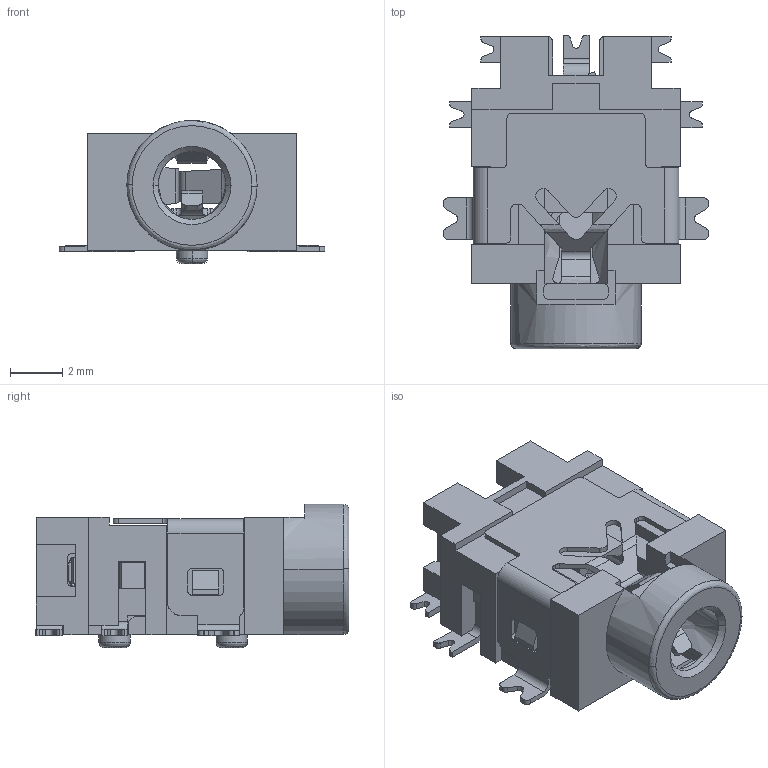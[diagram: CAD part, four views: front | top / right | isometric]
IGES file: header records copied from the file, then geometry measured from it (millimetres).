
Start section: Elysium IGES Interface
Global section: file name: C:\Users\fujisawa\Desktop\YKB21-5495N.igs; native system: Creo Elements/Direct Modeling 20.4  27-Mar-2021; preprocessor: Creo Element/Direct IGES_3D V2.2; author: Unknown; organization: Unknown; date: 20250404.140513; units: millimetre
Bounding box: 10.2 x 12.05 x 5.5 mm (x, y, z)
Volume: 249.1 mm3; surface area: 890.3 mm2
Topology: 1 solids, 1 shells, 596 faces, 1772 edges, 1164 vertices
Faces by surface type: bspline 596
